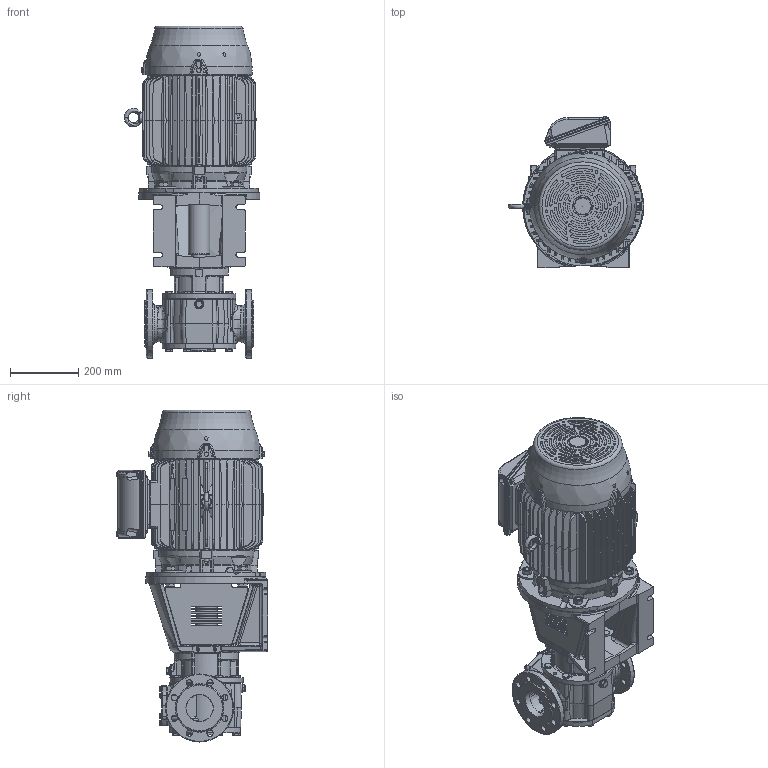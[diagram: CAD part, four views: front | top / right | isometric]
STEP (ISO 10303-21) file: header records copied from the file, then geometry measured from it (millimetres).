
FILE_DESCRIPTION(/* description */ (''),/* implementation_level */ '2;1');
FILE_NAME(/* name */ 'C:\V\JPP\Designs\GEAR PUMPS\PRODUCT ENGINEERING\EUROPE\TG BLOC\TG BLOC_58-80_G2_O_NRV-_160M-STEP.stp',/* time_stamp */ '2021-03-18T17:22:42+01:00',/* author */ ('A77THR'),/* organization */ (''),/* preprocessor_version */ 'ST-DEVELOPER v18.1',/* originating_system */ 'Autodesk Inventor 2020',/* authorisation */ '');
FILE_SCHEMA (('AUTOMOTIVE_DESIGN { 1 0 10303 214 3 1 1 }'));
Length unit declared in the file: millimetre
Products named in the file (1): TG BLOC_58-80_G2_O_NRV-_160M
Bounding box: 397.99 x 444.6 x 975 mm (x, y, z)
Volume: 48522892.9 mm3; surface area: 2451140.9 mm2
Topology: 1 solids, 1 shells, 4445 faces, 11682 edges, 7405 vertices
Faces by surface type: plane 1877, cylinder 984, bspline 861, cone 575, torus 109, sphere 39
Full cylindrical faces by diameter (mm): 4 x1, 4.5 x8, 4.917 x8, 5 x4, 6.3 x1, 6.647 x1, 7 x4, 7.323 x8, 7.5 x3, 8 x17, 9 x8, 9.4 x1, 10 x8, 10.106 x7, 10.2 x2, 11.053 x4, 11.4 x8, 11.445 x2, 11.6 x7, 12 x4, 12.5 x3, 13 x5, 13.157 x2, 13.2 x2, 14 x8, 15.011 x2, 16 x1, 17.2 x20, 18 x18, 19 x2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
Entity records: 177972 total; most frequent: CARTESIAN_POINT 70414, ORIENTED_EDGE 23198, DIRECTION 19798, EDGE_CURVE 11599, AXIS2_PLACEMENT_3D 7584, VERTEX_POINT 7401, EDGE_LOOP 4834, LINE 4630
